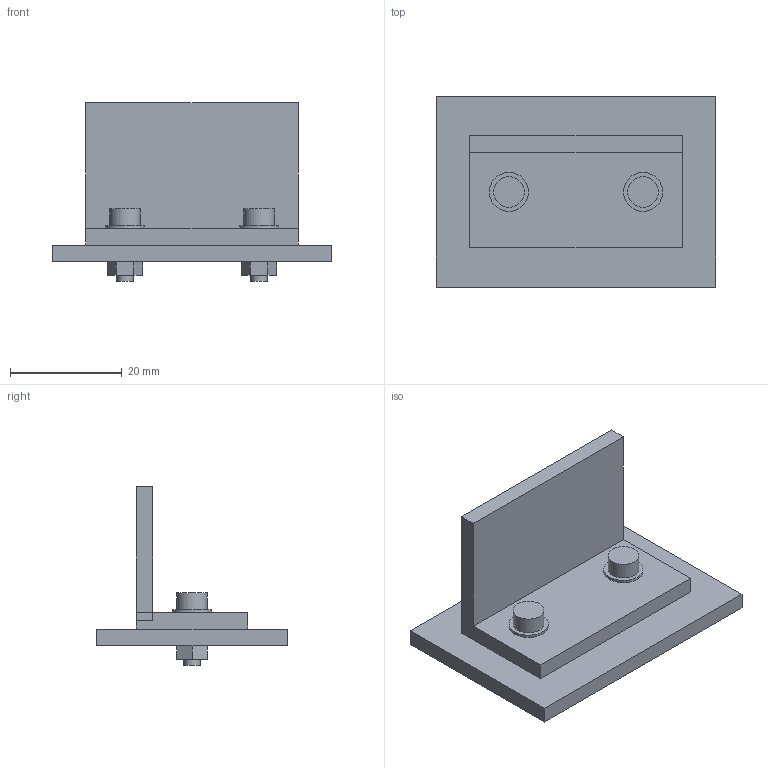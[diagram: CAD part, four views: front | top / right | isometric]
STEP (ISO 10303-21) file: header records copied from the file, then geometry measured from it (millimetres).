
FILE_DESCRIPTION(('Open CASCADE Model'),'2;1');
FILE_NAME('Open CASCADE Shape Model','2026-10-11T22:57:55',('Author'),( 'Open CASCADE'),'Open CASCADE STEP processor 7.6','kernelCAD 0.17.0 (https://kernelcad.com)','Unknown');
FILE_SCHEMA(('AUTOMOTIVE_DESIGN { 1 0 10303 214 1 1 1 1 }'));
Length unit declared in the file: millimetre
Products named in the file (8): base; l-bracket; left-washer; left-nut; left-screw; right-washer; right-nut; right-screw
Bounding box: 50 x 34 x 32 mm (x, y, z)
Volume: 10254.7 mm3; surface area: 8427.5 mm2
Topology: 8 solids, 8 shells, 60 faces, 120 edges, 78 vertices
Faces by surface type: plane 46, cylinder 14
Full cylindrical faces by diameter (mm): 3 x4, 3.2 x6, 5.5 x2, 7 x2
Entity records: 3291 total; most frequent: CARTESIAN_POINT 547, DIRECTION 502, LINE 304, VECTOR 304, ORIENTED_EDGE 240, PCURVE 240, DEFINITIONAL_REPRESENTATION 240, EDGE_CURVE 120
